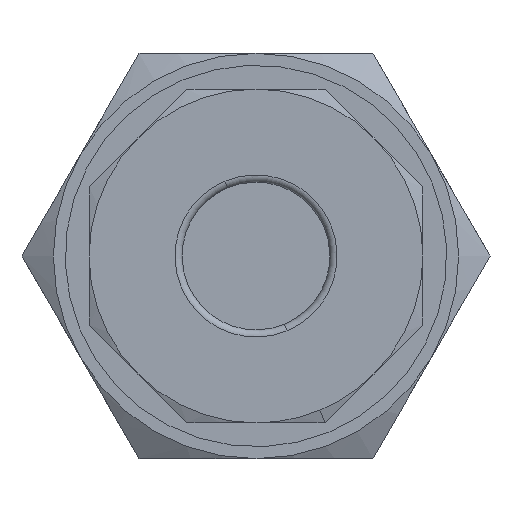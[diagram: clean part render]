
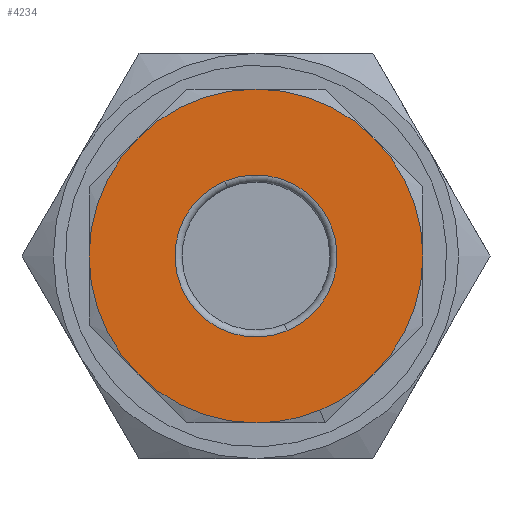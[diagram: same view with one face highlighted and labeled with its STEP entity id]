
A CAD part, front view. The second image highlights one B-rep face of the part: STEP entity #4234.
In plain terms, the highlighted planar face has unit normal (0, -1, 0).
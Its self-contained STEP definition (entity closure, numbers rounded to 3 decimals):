
#1 = DIRECTION ( 'NONE',  ( -0.383, 0., 0.924 ) ) ;
#749 = CARTESIAN_POINT ( 'NONE',  ( 0., -48.65, 0. ) ) ;
#776 = DIRECTION ( 'NONE',  ( -0.383, 0., 0.924 ) ) ;
#777 = DIRECTION ( 'NONE',  ( 0., 1., 0. ) ) ;
#784 = DIRECTION ( 'NONE',  ( -0.383, 0., 0.924 ) ) ;
#785 = DIRECTION ( 'NONE',  ( 0., 1., 0. ) ) ;
#786 = CARTESIAN_POINT ( 'NONE',  ( 0., -48.65, 0. ) ) ;
#901 = ORIENTED_EDGE ( 'NONE', *, *, #1187, .F. ) ;
#902 = ORIENTED_EDGE ( 'NONE', *, *, #1188, .F. ) ;
#903 = ORIENTED_EDGE ( 'NONE', *, *, #1165, .F. ) ;
#904 = ORIENTED_EDGE ( 'NONE', *, *, #1189, .F. ) ;
#905 = ORIENTED_EDGE ( 'NONE', *, *, #1190, .F. ) ;
#1165 = EDGE_CURVE ( 'NONE', #1893, #1897, #1379, .T. ) ;
#1167 = EDGE_CURVE ( 'NONE', #1891, #1894, #1378, .T. ) ;
#1182 = EDGE_CURVE ( 'NONE', #1894, #1891, #1394, .T. ) ;
#1183 = EDGE_CURVE ( 'NONE', #1373, #1370, #1396, .T. ) ;
#1184 = EDGE_CURVE ( 'NONE', #1358, #1373, #1397, .T. ) ;
#1185 = EDGE_CURVE ( 'NONE', #1358, #1353, #1398, .T. ) ;
#1186 = EDGE_CURVE ( 'NONE', #1361, #1353, #1395, .T. ) ;
#1187 = EDGE_CURVE ( 'NONE', #1364, #1361, #1399, .T. ) ;
#1188 = EDGE_CURVE ( 'NONE', #1897, #1364, #1400, .T. ) ;
#1189 = EDGE_CURVE ( 'NONE', #1369, #1893, #1401, .T. ) ;
#1190 = EDGE_CURVE ( 'NONE', #1370, #1369, #1402, .T. ) ;
#1353 = VERTEX_POINT ( 'NONE', #3211 ) ;
#1358 = VERTEX_POINT ( 'NONE', #3216 ) ;
#1361 = VERTEX_POINT ( 'NONE', #3219 ) ;
#1364 = VERTEX_POINT ( 'NONE', #3222 ) ;
#1369 = VERTEX_POINT ( 'NONE', #3227 ) ;
#1370 = VERTEX_POINT ( 'NONE', #3228 ) ;
#1373 = VERTEX_POINT ( 'NONE', #3231 ) ;
#1378 = CIRCLE ( 'NONE', #4225, 3.4 ) ;
#1379 = CIRCLE ( 'NONE', #4223, 7. ) ;
#1394 = CIRCLE ( 'NONE', #4230, 3.4 ) ;
#1395 = CIRCLE ( 'NONE', #3636, 7. ) ;
#1396 = CIRCLE ( 'NONE', #4231, 7. ) ;
#1397 = CIRCLE ( 'NONE', #4232, 7. ) ;
#1398 = CIRCLE ( 'NONE', #4233, 7. ) ;
#1399 = CIRCLE ( 'NONE', #3637, 7. ) ;
#1400 = CIRCLE ( 'NONE', #3638, 7. ) ;
#1401 = CIRCLE ( 'NONE', #3639, 7. ) ;
#1402 = CIRCLE ( 'NONE', #3640, 7. ) ;
#1772 = ORIENTED_EDGE ( 'NONE', *, *, #1182, .T. ) ;
#1773 = ORIENTED_EDGE ( 'NONE', *, *, #1167, .T. ) ;
#1774 = ORIENTED_EDGE ( 'NONE', *, *, #1183, .F. ) ;
#1775 = ORIENTED_EDGE ( 'NONE', *, *, #1184, .F. ) ;
#1776 = ORIENTED_EDGE ( 'NONE', *, *, #1185, .T. ) ;
#1777 = ORIENTED_EDGE ( 'NONE', *, *, #1186, .F. ) ;
#1891 = VERTEX_POINT ( 'NONE', #3243 ) ;
#1893 = VERTEX_POINT ( 'NONE', #3247 ) ;
#1894 = VERTEX_POINT ( 'NONE', #3244 ) ;
#1897 = VERTEX_POINT ( 'NONE', #3249 ) ;
#2170 = FACE_BOUND ( 'NONE', #5465, .T. ) ;
#2187 = FACE_OUTER_BOUND ( 'NONE', #5473, .T. ) ;
#2797 = AXIS2_PLACEMENT_3D ( 'NONE', #5535, #5536, #1 ) ;
#3211 = CARTESIAN_POINT ( 'NONE',  ( -7., -48.65, 0. ) ) ;
#3216 = CARTESIAN_POINT ( 'NONE',  ( -4.95, -48.65, 4.95 ) ) ;
#3219 = CARTESIAN_POINT ( 'NONE',  ( -4.95, -48.65, -4.95 ) ) ;
#3222 = CARTESIAN_POINT ( 'NONE',  ( 0., -48.65, -7. ) ) ;
#3227 = CARTESIAN_POINT ( 'NONE',  ( 7., -48.65, 0. ) ) ;
#3228 = CARTESIAN_POINT ( 'NONE',  ( 4.95, -48.65, 4.95 ) ) ;
#3231 = CARTESIAN_POINT ( 'NONE',  ( 0., -48.65, 7. ) ) ;
#3243 = CARTESIAN_POINT ( 'NONE',  ( 1.301, -48.65, -3.141 ) ) ;
#3244 = CARTESIAN_POINT ( 'NONE',  ( -1.301, -48.65, 3.141 ) ) ;
#3247 = CARTESIAN_POINT ( 'NONE',  ( 4.95, -48.65, -4.95 ) ) ;
#3249 = CARTESIAN_POINT ( 'NONE',  ( 2.679, -48.65, -6.467 ) ) ;
#3636 = AXIS2_PLACEMENT_3D ( 'NONE', #5112, #5111, #5110 ) ;
#3637 = AXIS2_PLACEMENT_3D ( 'NONE', #5109, #5108, #5107 ) ;
#3638 = AXIS2_PLACEMENT_3D ( 'NONE', #5104, #5103, #5102 ) ;
#3639 = AXIS2_PLACEMENT_3D ( 'NONE', #5100, #5099, #5098 ) ;
#3640 = AXIS2_PLACEMENT_3D ( 'NONE', #5095, #5094, #5093 ) ;
#4223 = AXIS2_PLACEMENT_3D ( 'NONE', #786, #785, #784 ) ;
#4225 = AXIS2_PLACEMENT_3D ( 'NONE', #749, #777, #776 ) ;
#4230 = AXIS2_PLACEMENT_3D ( 'NONE', #5118, #5126, #5125 ) ;
#4231 = AXIS2_PLACEMENT_3D ( 'NONE', #5124, #5123, #5121 ) ;
#4232 = AXIS2_PLACEMENT_3D ( 'NONE', #5119, #5117, #5116 ) ;
#4233 = AXIS2_PLACEMENT_3D ( 'NONE', #5115, #5114, #5113 ) ;
#4234 = ADVANCED_FACE ( 'NONE', ( #2170, #2187 ), #5528, .T. ) ;
#5093 = DIRECTION ( 'NONE',  ( -0.383, 0., 0.924 ) ) ;
#5094 = DIRECTION ( 'NONE',  ( 0., 1., 0. ) ) ;
#5095 = CARTESIAN_POINT ( 'NONE',  ( 0., -48.65, 0. ) ) ;
#5098 = DIRECTION ( 'NONE',  ( -0.383, 0., 0.924 ) ) ;
#5099 = DIRECTION ( 'NONE',  ( 0., 1., 0. ) ) ;
#5100 = CARTESIAN_POINT ( 'NONE',  ( 0., -48.65, 0. ) ) ;
#5102 = DIRECTION ( 'NONE',  ( -0.383, 0., 0.924 ) ) ;
#5103 = DIRECTION ( 'NONE',  ( 0., 1., 0. ) ) ;
#5104 = CARTESIAN_POINT ( 'NONE',  ( 0., -48.65, 0. ) ) ;
#5107 = DIRECTION ( 'NONE',  ( -0.383, 0., 0.924 ) ) ;
#5108 = DIRECTION ( 'NONE',  ( 0., 1., 0. ) ) ;
#5109 = CARTESIAN_POINT ( 'NONE',  ( 0., -48.65, 0. ) ) ;
#5110 = DIRECTION ( 'NONE',  ( -0.383, 0., 0.924 ) ) ;
#5111 = DIRECTION ( 'NONE',  ( 0., 1., 0. ) ) ;
#5112 = CARTESIAN_POINT ( 'NONE',  ( 0., -48.65, 0. ) ) ;
#5113 = DIRECTION ( 'NONE',  ( -0.383, 0., 0.924 ) ) ;
#5114 = DIRECTION ( 'NONE',  ( 0., -1., 0. ) ) ;
#5115 = CARTESIAN_POINT ( 'NONE',  ( 0., -48.65, 0. ) ) ;
#5116 = DIRECTION ( 'NONE',  ( -0.383, 0., 0.924 ) ) ;
#5117 = DIRECTION ( 'NONE',  ( 0., 1., 0. ) ) ;
#5118 = CARTESIAN_POINT ( 'NONE',  ( 0., -48.65, 0. ) ) ;
#5119 = CARTESIAN_POINT ( 'NONE',  ( 0., -48.65, 0. ) ) ;
#5121 = DIRECTION ( 'NONE',  ( -0.383, 0., 0.924 ) ) ;
#5123 = DIRECTION ( 'NONE',  ( 0., 1., 0. ) ) ;
#5124 = CARTESIAN_POINT ( 'NONE',  ( 0., -48.65, 0. ) ) ;
#5125 = DIRECTION ( 'NONE',  ( -0.383, 0., 0.924 ) ) ;
#5126 = DIRECTION ( 'NONE',  ( 0., 1., 0. ) ) ;
#5465 = EDGE_LOOP ( 'NONE', ( #1772, #1773 ) ) ;
#5473 = EDGE_LOOP ( 'NONE', ( #1774, #1775, #1776, #1777, #901, #902, #903, #904, #905 ) ) ;
#5528 = PLANE ( 'NONE',  #2797 ) ;
#5535 = CARTESIAN_POINT ( 'NONE',  ( -9.899, -48.65, 0. ) ) ;
#5536 = DIRECTION ( 'NONE',  ( 0., -1., 0. ) ) ;
